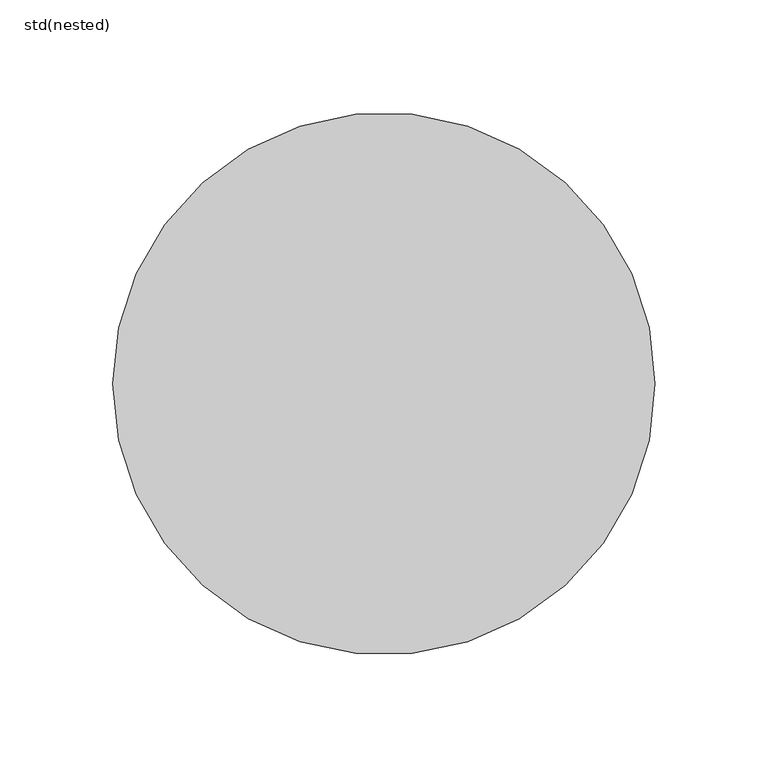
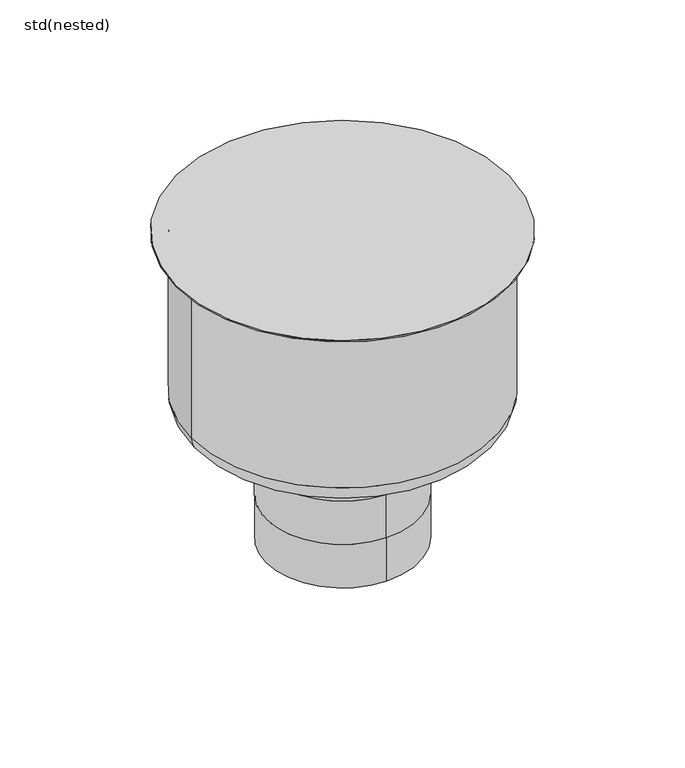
"""IFC4 building model written with IfcOpenShell, lengths in millimetres: sanitary terminal geometry, ZZZ_do not use_PF_ST_WPB_industrial Processes Variant_CR 218_ACO : std(nested)."""

from ifc_helpers import new_model, si_unit, point, frame, origin, origin_with_axes, place, context, project, spatial, circle_curve, ellipse_curve, trimmed, source, transform, mapped, element, save
from ifc_brep_helpers import plane_surface, cylinder_surface, revolved_surface, advanced_brep


def std_nested_0d080e31(model_context):
    return source(origin(), model_context, "Body", "AdvancedBrep", [
        advanced_brep(
        [(0.0, -55.0, -234.0), (0.0, 55.0, -234.0), (0.0, -55.0, -201.0), (0.0, 55.0, -201.0), (0.0, -55.0, -168.0), (0.0, 55.0, -168.0), (0.0, 55.0, -135.0), (55.0, 0.0, -135.0), (0.0, -55.0, -135.0), (-55.0, 0.0, -135.0), (109.0, 0.0, -120.0), (-109.0, 0.0, -120.0), (-109.0, 0.0, -1.0), (109.0, 0.0, -1.0), (94.0, 0.0, -135.0), (-94.0, 0.0, -135.0), (-120.0, 0.0, -1.0), (120.0, 0.0, -1.0), (-120.0, 0.0, 0.0), (120.0, 0.0, 0.0)],
        [
            (0, 1, circle_curve(frame((0.0, 0.0, -234.0), z_axis=(0.0, 0.0, -1.0), x_axis=(0.0, 1.0, 0.0)), 55.0)),
            (1, 0, circle_curve(frame((0.0, 0.0, -234.0), z_axis=(0.0, 0.0, -1.0), x_axis=(0.0, 1.0, 0.0)), 55.0)),
            (0, 2),
            (2, 3, circle_curve(frame((0.0, 0.0, -201.0), z_axis=(0.0, 0.0, -1.0), x_axis=(0.0, 1.0, 0.0)), 55.0)),
            (3, 1),
            (3, 2, circle_curve(frame((0.0, 0.0, -201.0), z_axis=(0.0, 0.0, -1.0), x_axis=(0.0, 1.0, 0.0)), 55.0)),
            (4, 2),
            (3, 5),
            (5, 4, circle_curve(frame((0.0, 0.0, -168.0), z_axis=(0.0, 0.0, -1.0), x_axis=(1.0, 0.0, 0.0)), 55.0)),
            (4, 5, circle_curve(frame((0.0, 0.0, -168.0), z_axis=(0.0, 0.0, -1.0), x_axis=(-1.0, 0.0, 0.0)), 55.0)),
            (5, 6),
            (6, 7, circle_curve(frame((0.0, 0.0, -135.0), z_axis=(0.0, 0.0, -1.0), x_axis=(0.0, 1.0, 0.0)), 55.0)),
            (7, 8, circle_curve(frame((0.0, 0.0, -135.0), z_axis=(0.0, 0.0, -1.0), x_axis=(0.0, 1.0, 0.0)), 55.0)),
            (8, 4),
            (8, 9, circle_curve(frame((0.0, 0.0, -135.0), z_axis=(0.0, 0.0, -1.0), x_axis=(0.0, 1.0, 0.0)), 55.0)),
            (9, 6, circle_curve(frame((0.0, 0.0, -135.0), z_axis=(0.0, 0.0, -1.0), x_axis=(0.0, 1.0, 0.0)), 55.0)),
            (10, 11, circle_curve(frame((0.0, 0.0, -120.0), z_axis=(0.0, 0.0, 1.0), x_axis=(-1.0, 0.0, 0.0)), 109.0)),
            (11, 12),
            (12, 13, circle_curve(frame((0.0, 0.0, -1.0), z_axis=(0.0, 0.0, -1.0), x_axis=(-1.0, 0.0, 0.0)), 109.0)),
            (13, 10),
            (11, 10, circle_curve(frame((0.0, 0.0, -120.0), z_axis=(0.0, 0.0, 1.0), x_axis=(-1.0, 0.0, 0.0)), 109.0)),
            (13, 12, circle_curve(frame((0.0, 0.0, -1.0), z_axis=(0.0, 0.0, -1.0), x_axis=(-1.0, 0.0, 0.0)), 109.0)),
            (10, 14, circle_curve(frame((94.0, 0.0, -120.0), z_axis=(0.0, 1.0, 0.0), x_axis=(-1.0, 0.0, 0.0)), 15.0)),
            (14, 15, circle_curve(frame((0.0, 0.0, -135.0), z_axis=(0.0, 0.0, 1.0), x_axis=(-1.0, 0.0, 0.0)), 94.0)),
            (15, 11, circle_curve(frame((-94.0, 0.0, -120.0), z_axis=(0.0, 1.0, 0.0), x_axis=(1.0, 0.0, 0.0)), 15.0)),
            (15, 14, circle_curve(frame((0.0, 0.0, -135.0), z_axis=(0.0, 0.0, 1.0), x_axis=(-1.0, 0.0, 0.0)), 94.0)),
            (14, 7),
            (9, 15),
            (16, 17, circle_curve(frame((0.0, 0.0, -1.0), z_axis=(0.0, 0.0, -1.0), x_axis=(1.0, 0.0, 0.0)), 120.0)),
            (17, 16, circle_curve(frame((0.0, 0.0, -1.0), z_axis=(0.0, 0.0, -1.0), x_axis=(1.0, 0.0, 0.0)), 120.0)),
            (18, 19, circle_curve(origin_with_axes(), 120.0)),
            (19, 18, circle_curve(origin_with_axes(), 120.0)),
            (17, 19),
            (18, 16),
        ],
        [
            plane_surface(frame((0.0, 55.0, -234.0), z_axis=(0.0, 0.0, -1.0), x_axis=(1.0, 0.0, 0.0))),
            cylinder_surface(frame((0.0, 0.0, -201.0), z_axis=(0.0, 0.0, -1.0), x_axis=(0.0, 1.0, 0.0)), 55.0),
            cylinder_surface(frame((0.0, 0.0, -168.0), z_axis=(0.0, 0.0, -1.0), x_axis=(1.0, 0.0, 0.0)), 55.0),
            cylinder_surface(frame((0.0, 0.0, -168.0), z_axis=(0.0, 0.0, -1.0), x_axis=(-1.0, 0.0, 0.0)), 55.0),
            cylinder_surface(frame((0.0, 0.0, -135.0), z_axis=(0.0, 0.0, -1.0), x_axis=(0.0, 1.0, 0.0)), 55.0),
            cylinder_surface(frame((0.0, 0.0, 60.0), z_axis=(0.0, 0.0, -1.0), x_axis=(-1.0, 0.0, 0.0)), 109.0),
            revolved_surface(trimmed(ellipse_curve(frame((-94.0, 0.0, -120.0), z_axis=(0.0, -1.0, 0.0), x_axis=(1.0, 0.0, 0.0)), 15.0, 15.0), [point((-109.0, 0.0, -120.0))], [point((-94.0, 0.0, -135.0))], True, "CARTESIAN"), (0.0, 0.0, 60.0), (0.0, 0.0, -1.0)),
            plane_surface(frame((0.0, 0.0, -135.0), z_axis=(0.0, 0.0, -1.0), x_axis=(-1.0, 0.0, 0.0))),
            plane_surface(frame((120.0, 0.0, -1.0), z_axis=(0.0, 0.0, -1.0), x_axis=(0.0, -1.0, 0.0))),
            plane_surface(frame((120.0, 0.0, 0.0), z_axis=(0.0, 0.0, 1.0), x_axis=(0.0, 1.0, 0.0))),
            cylinder_surface(frame((0.0, 0.0, -1.0), z_axis=(0.0, 0.0, 1.0), x_axis=(1.0, 0.0, 0.0)), 120.0),
        ],
        [
            (0, [[1, 2]]),
            (1, [[-1, 3, 4, 5]]),
            (1, [[-2, -5, 6, -3]]),
            (2, [[7, -6, 8, 9]]),
            (3, [[-7, 10, -8, -4]]),
            (4, [[11, 12, 13, 14, -9]]),
            (4, [[-11, -10, -14, 15, 16]]),
            (5, [[17, 18, 19, 20]]),
            (5, [[-18, 21, -20, 22]]),
            (6, [[-17, 23, 24, 25]]),
            (6, [[-21, -25, 26, -23]]),
            (7, [[-24, 27, -12, -16, 28]]),
            (7, [[-26, -28, -15, -13, -27]]),
            (8, [[29, 30], [-19, -22]]),
            (9, [[31, 32]]),
            (10, [[-30, 33, -31, 34]]),
            (10, [[-29, -34, -32, -33]]),
        ],
    ),
    ])


if __name__ == "__main__":
    model = new_model("IFC4")
    model_context = context("Model", 3, world=origin())
    ifc_project = project(units=[si_unit("LENGTHUNIT", "METRE", prefix="MILLI")], contexts=[model_context])
    site = spatial("IfcSite", under=ifc_project)
    building = spatial("IfcBuilding", under=site)
    placement = place(None, origin())
    std_nested_shape = std_nested_0d080e31(model_context)
    element("IfcSanitaryTerminal", 1, ObjectType="ZZZ_do not use_PF_ST_WPB_industrial Processes Variant_CR 218_ACO : std(nested)", at=placement, inside=building, context=model_context, shape_type="MappedRepresentation", body=[
        mapped(std_nested_shape, transform((0.0, 0.0, 0.0), x_axis=(1.0, 0.0, 0.0), y_axis=(0.0, 1.0, 0.0), z_axis=(0.0, 0.0, 1.0))),
    ])
    save(model, "model.ifc")
